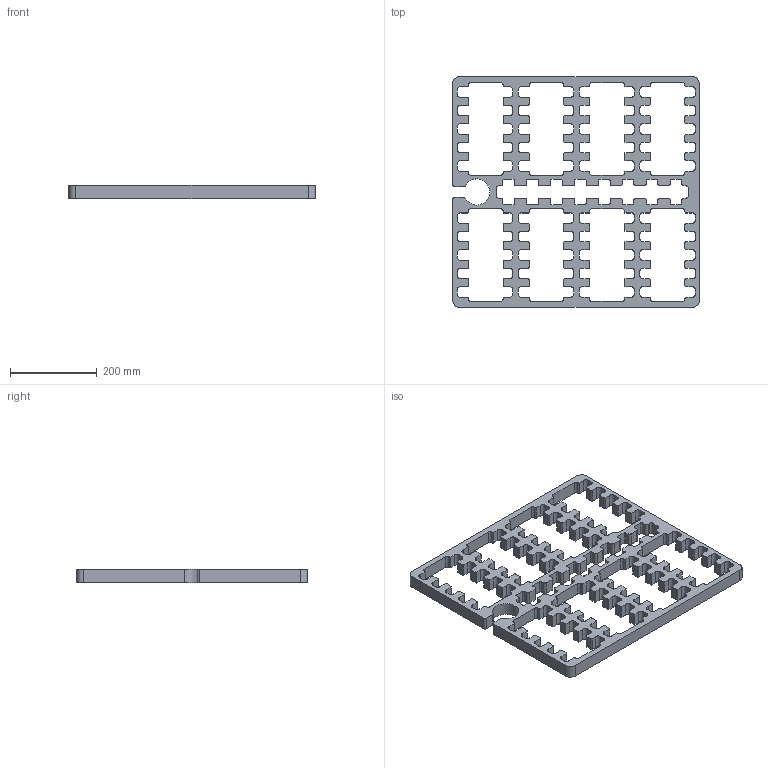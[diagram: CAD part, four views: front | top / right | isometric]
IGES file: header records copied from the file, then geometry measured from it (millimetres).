
Global section: file name: foam_2 v1; native system: unknown; preprocessor: unknown; author: unknown; organization: unknown; date: 20190213.104826; units: millimetre
Bounding box: 567.32 x 530.79 x 30 mm (x, y, z)
Volume: 2987417 mm3; surface area: 544316 mm2
Topology: 1 solids, 1 shells, 858 faces, 2568 edges, 1712 vertices
Faces by surface type: bspline 858
